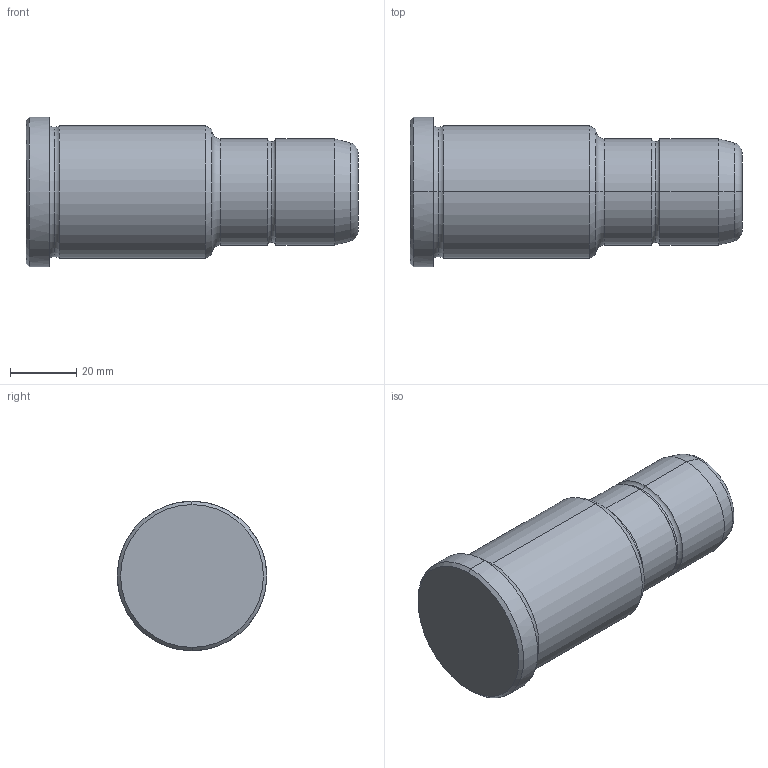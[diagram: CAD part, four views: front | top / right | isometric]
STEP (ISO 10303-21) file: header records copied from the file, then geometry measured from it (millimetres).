
FILE_DESCRIPTION(('CATIA V5 STEP Exchange'),'2;1');
FILE_NAME('C:\Users\Utente\Desktop\IO LAVORO\3D X SITO CF\X SITO\PLASTICA\351\351-32X56X100.stp','2021-09-07T12:38:35+00:00',('none'),('none'),'CATIA Version 5 Release 20 GA (IN-10)','CATIA V5 STEP AP203','none');
FILE_SCHEMA(('CONFIG_CONTROL_DESIGN'));
Length unit declared in the file: millimetre
Products named in the file (1): 351-32X56X100
Bounding box: 100 x 45 x 45 mm (x, y, z)
Volume: 107031.8 mm3; surface area: 14268.2 mm2
Topology: 1 solids, 1 shells, 30 faces, 86 edges, 60 vertices
Faces by surface type: torus 12, cylinder 8, cone 6, plane 4
Entity records: 1112 total; most frequent: CARTESIAN_POINT 289, ORIENTED_EDGE 172, DIRECTION 138, AXIS2_PLACEMENT_3D 95, EDGE_CURVE 86, CIRCLE 64, VERTEX_POINT 60, EDGE_LOOP 32
